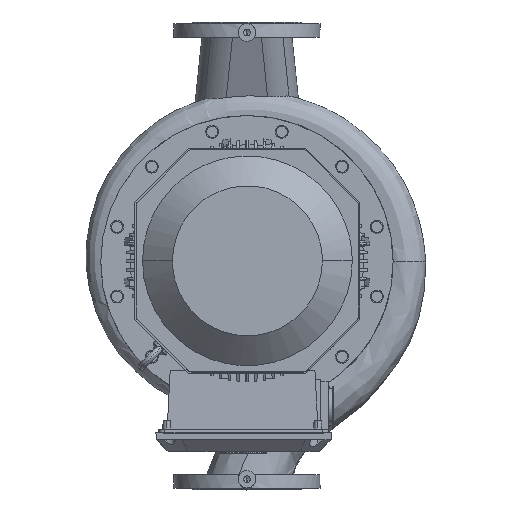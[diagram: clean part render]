
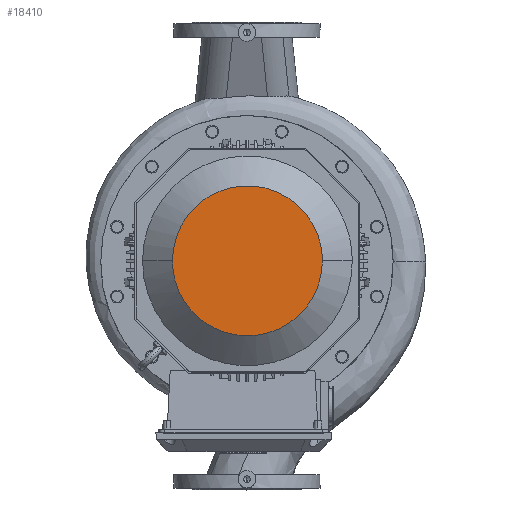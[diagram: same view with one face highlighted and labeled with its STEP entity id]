
A CAD part, top view. The second image highlights one B-rep face of the part: STEP entity #18410.
In plain terms, the highlighted free-form (B-spline) face has degree [1, 1] with [2, 2] control points.
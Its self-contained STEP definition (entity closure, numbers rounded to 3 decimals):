
#18410=ADVANCED_FACE('     F36',(#35713),#35714,.T.);
#18492=EDGE_CURVE('     E99',#35839,#35840,#35841,.T.);
#18496=EDGE_CURVE('     E99',#35840,#35839,#35845,.T.);
#35713=FACE_OUTER_BOUND('',#87364,.T.);
#35714=B_SPLINE_SURFACE_WITH_KNOTS('',1,1,((#87365,#87366),(#87367,#87368)),.UNSPECIFIED.,.F.,.F.,.F.,(2,2),(2,2),(0.044,0.955),(0.039,0.96),.UNSPECIFIED.);
#35839=VERTEX_POINT('',#87809);
#35840=VERTEX_POINT('',#87810);
#35841=(B_SPLINE_CURVE(2,(#87812,#87813,#87814,#87815,#87816),.UNSPECIFIED.,.F.,.F.)B_SPLINE_CURVE_WITH_KNOTS((3,2,3),(64.683,86.244,129.365),.UNSPECIFIED.)RATIONAL_B_SPLINE_CURVE((0.75,0.75,1.0,0.5,1.0))BOUNDED_CURVE()REPRESENTATION_ITEM('')GEOMETRIC_REPRESENTATION_ITEM()CURVE());
#35845=(B_SPLINE_CURVE(2,(#87830,#87831,#87832,#87833,#87834),.UNSPECIFIED.,.F.,.F.)B_SPLINE_CURVE_WITH_KNOTS((3,2,3),(0.0,43.122,64.683),.UNSPECIFIED.)RATIONAL_B_SPLINE_CURVE((1.0,0.5,1.0,0.75,0.75))BOUNDED_CURVE()REPRESENTATION_ITEM('')GEOMETRIC_REPRESENTATION_ITEM()CURVE());
#87364=EDGE_LOOP('',(#103958,#103959));
#87365=CARTESIAN_POINT('',(-269.045,153.272,-215.6));
#87366=CARTESIAN_POINT('',(-269.045,-103.789,-215.6));
#87367=CARTESIAN_POINT('',(-12.172,153.272,-215.6));
#87368=CARTESIAN_POINT('',(-12.172,-103.789,-215.6));
#87809=CARTESIAN_POINT('',(-268.613,24.546,-215.6));
#87810=CARTESIAN_POINT('',(-12.181,24.546,-215.6));
#87812=CARTESIAN_POINT('',(-268.613,24.546,-215.6));
#87813=CARTESIAN_POINT('',(-268.613,-49.479,-215.6));
#87814=CARTESIAN_POINT('',(-204.505,-86.492,-215.6));
#87815=CARTESIAN_POINT('',(-12.181,-197.531,-215.6));
#87816=CARTESIAN_POINT('',(-12.181,24.546,-215.6));
#87830=CARTESIAN_POINT('',(-12.181,24.546,-215.6));
#87831=CARTESIAN_POINT('',(-12.181,246.623,-215.6));
#87832=CARTESIAN_POINT('',(-204.505,135.585,-215.6));
#87833=CARTESIAN_POINT('',(-268.613,98.572,-215.6));
#87834=CARTESIAN_POINT('',(-268.613,24.546,-215.6));
#103958=ORIENTED_EDGE('',*,*,#18496,.F.);
#103959=ORIENTED_EDGE('',*,*,#18492,.F.);
